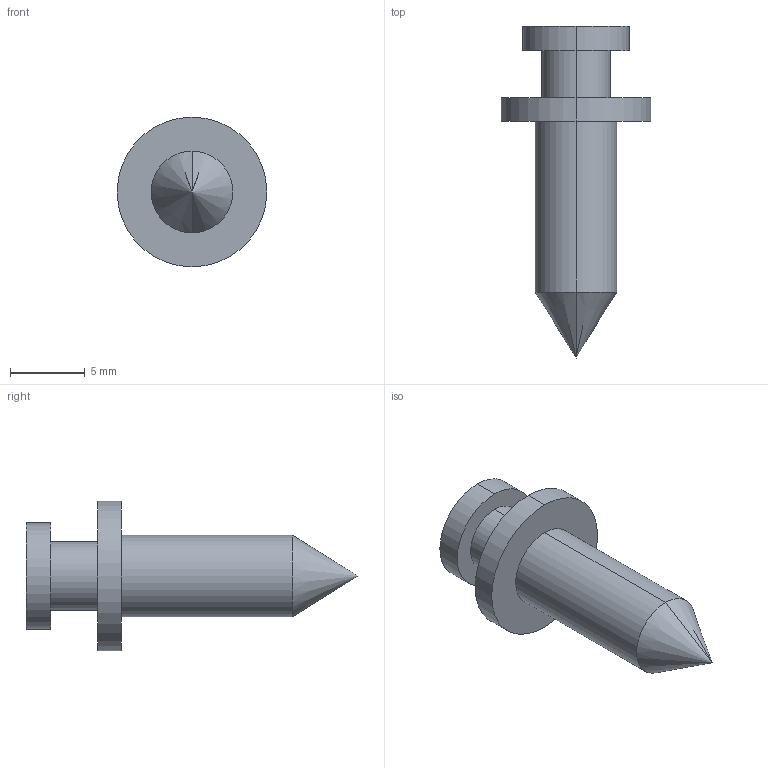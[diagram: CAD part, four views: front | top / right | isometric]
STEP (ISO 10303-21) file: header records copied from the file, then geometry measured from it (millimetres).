
FILE_DESCRIPTION (( 'STEP AP214' ), '1' );
FILE_NAME ('1165_V01_REF_PRT_SH_SCR.STEP', '2026-01-20T14:50:38', ( '' ), ( '' ), 'SwSTEP 2.0', 'SolidWorks 2025', '' );
FILE_SCHEMA (( 'AUTOMOTIVE_DESIGN' ));
Length unit declared in the file: inch
Products named in the file (1): 1165_V01_REF_PRT_SH_SCR
Bounding box: 10.03 x 22.25 x 10.03 mm (x, y, z)
Volume: 546.3 mm3; surface area: 554.9 mm2
Topology: 1 solids, 1 shells, 14 faces, 28 edges, 17 vertices
Faces by surface type: cylinder 8, plane 4, cone 2
Entity records: 385 total; most frequent: DIRECTION 72, CARTESIAN_POINT 58, ORIENTED_EDGE 52, AXIS2_PLACEMENT_3D 31, EDGE_CURVE 26, VERTEX_POINT 17, EDGE_LOOP 17, CIRCLE 16
